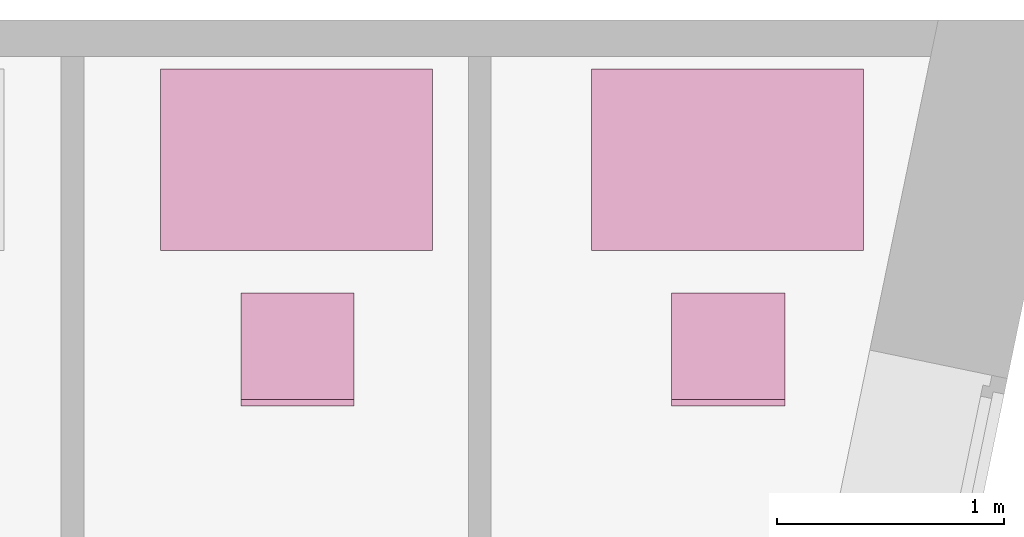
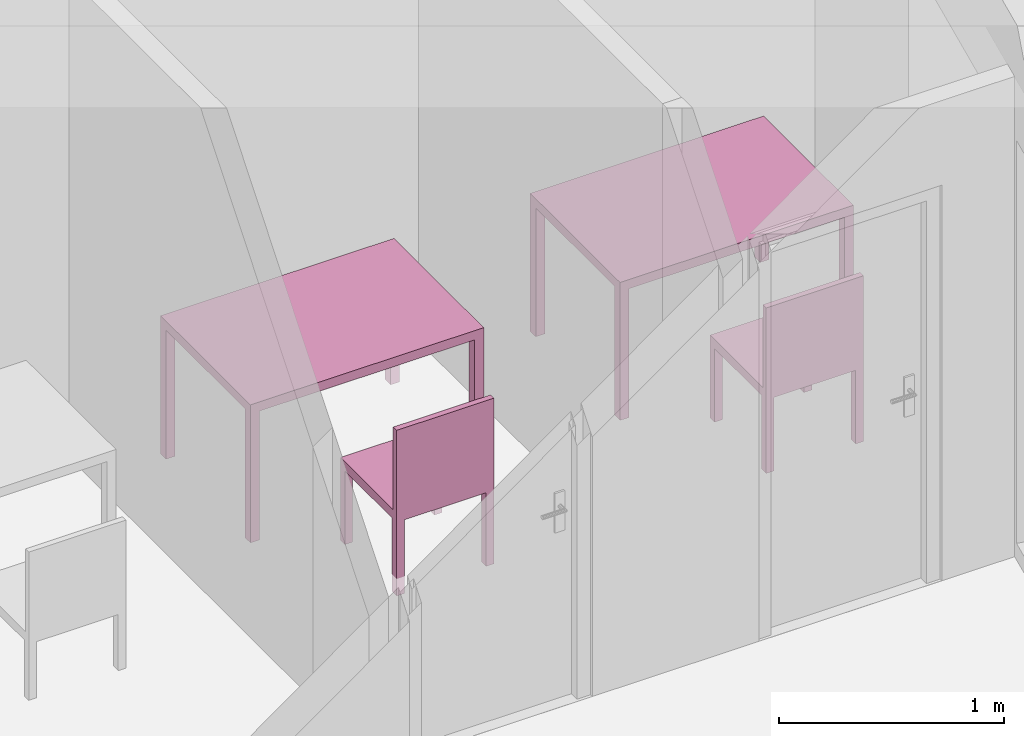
"""IFC4 building model written with IfcOpenShell, lengths in metres."""

from ifc_helpers import new_model, entity, si_unit, converted_unit, derived_unit, frame, origin, place, context, subcontext, project, spatial, faceted_brep, element, save


model = new_model("IFC4")

# Units and contexts
model_context = context("Model", 3, precision=1e-05, world=origin())
body_context = subcontext(model_context, "Body", "Model", "MODEL_VIEW")
ifc_project = project(units=[si_unit("LENGTHUNIT", "METRE"), si_unit("AREAUNIT", "SQUARE_METRE"), si_unit("VOLUMEUNIT", "CUBIC_METRE"), si_unit("MASSUNIT", "GRAM", prefix="KILO"), converted_unit("PLANEANGLEUNIT", "DEGREE", entity("IfcPlaneAngleMeasure", 0.0174532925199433), si_unit("PLANEANGLEUNIT", "RADIAN"), dimensions=[0, 0, 0, 0, 0, 0, 0]), derived_unit("THERMALTRANSMITTANCEUNIT", [(si_unit("POWERUNIT", "WATT"), 1), (si_unit("THERMODYNAMICTEMPERATUREUNIT", "KELVIN"), -1), (si_unit("LENGTHUNIT", "METRE"), -2)]), derived_unit("VOLUMETRICFLOWRATEUNIT", [(si_unit("LENGTHUNIT", "METRE"), 3), (converted_unit("TIMEUNIT", "hour", entity("IfcTimeMeasure", 3600.0), si_unit("TIMEUNIT", "SECOND"), dimensions=[0, 0, 1, 0, 0, 0, 0]), -1), (si_unit("LENGTHUNIT", "METRE"), -1)])], contexts=[model_context])

# Building, storeys
building_placement = place(None, origin())
building = spatial("IfcBuilding", under=ifc_project, at=building_placement, Name="HABITATGE PLURIFAMILIAR", CompositionType="ELEMENT")
storey_1_placement = place(building_placement, frame((0.0, 0.0, 15.28)))
storey_1 = spatial("IfcBuildingStorey", under=building, at=storey_1_placement, Name="PLANTA QUARTA", CompositionType="ELEMENT", Elevation=15.28)
storey_2_placement = place(storey_1_placement, frame((0.0, 0.0, 12.27)))
storey_2 = spatial("IfcBuildingStorey", under=storey_1, at=storey_2_placement, Name="NOU", CompositionType="PARTIAL")

# Furniture
furniture_1_placement = place(storey_2_placement, frame((423.415825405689, 27.2124791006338, -12.3699999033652)))
element("IfcFurniture", 1, at=furniture_1_placement, inside=storey_2, Name="Taula 120X80_P4", context=body_context, shape_type="Brep", body=[
    faceted_brep([(0.0464285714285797, 0.750069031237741, 0.0), (0.0464285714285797, 0.800069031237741, 0.0), (0.0, 0.800069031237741, 0.0), (0.0, 0.750069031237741, 0.0), (0.0464285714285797, 0.800069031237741, 0.7), (0.0464285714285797, 0.750069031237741, 0.7), (0.0, 0.750069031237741, 0.7), (0.0, 0.800069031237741, 0.7)], [[[0, 1, 2, 3]], [[4, 5, 6, 7]], [[1, 0, 5, 4]], [[2, 1, 4, 7]], [[3, 2, 7, 6]], [[0, 3, 6, 5]]], orient=[[False], [False], [False], [False], [False], [False]]),
    faceted_brep([(0.046428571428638, 0.0, 0.0), (0.046428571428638, 0.0500000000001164, 0.0), (0.0, 0.0500000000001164, 0.0), (0.0, 0.0, 0.0), (0.046428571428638, 0.0500000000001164, 0.7), (0.046428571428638, 0.0, 0.7), (0.0, 0.0, 0.7), (0.0, 0.0500000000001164, 0.7)], [[[0, 1, 2, 3]], [[4, 5, 6, 7]], [[1, 0, 5, 4]], [[2, 1, 4, 7]], [[3, 2, 7, 6]], [[0, 3, 6, 5]]], orient=[[False], [False], [False], [False], [False], [False]]),
    faceted_brep([(1.2, 0.750069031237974, 0.0), (1.2, 0.800069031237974, 0.0), (1.15357142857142, 0.800069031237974, 0.0), (1.15357142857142, 0.750069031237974, 0.0), (1.2, 0.800069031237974, 0.7), (1.2, 0.750069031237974, 0.7), (1.15357142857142, 0.750069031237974, 0.7), (1.15357142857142, 0.800069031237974, 0.7)], [[[0, 1, 2, 3]], [[4, 5, 6, 7]], [[1, 0, 5, 4]], [[2, 1, 4, 7]], [[3, 2, 7, 6]], [[0, 3, 6, 5]]], orient=[[False], [False], [False], [False], [False], [False]]),
    faceted_brep([(1.20000000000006, 0.0, 0.0), (1.20000000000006, 0.0500000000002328, 0.0), (1.15357142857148, 0.0500000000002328, 0.0), (1.15357142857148, 0.0, 0.0), (1.20000000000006, 0.0500000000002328, 0.7), (1.20000000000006, 0.0, 0.7), (1.15357142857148, 0.0, 0.7), (1.15357142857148, 0.0500000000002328, 0.7)], [[[0, 1, 2, 3]], [[4, 5, 6, 7]], [[1, 0, 5, 4]], [[2, 1, 4, 7]], [[3, 2, 7, 6]], [[0, 3, 6, 5]]], orient=[[False], [False], [False], [False], [False], [False]]),
    faceted_brep([(1.20000000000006, 0.0, 0.7), (1.2, 0.800069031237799, 0.7), (0.0, 0.800069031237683, 0.7), (0.0, 0.0, 0.7), (1.2, 0.800069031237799, 0.75), (1.20000000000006, 0.0, 0.75), (0.0, 0.0, 0.75), (0.0, 0.800069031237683, 0.75)], [[[0, 1, 2, 3]], [[4, 5, 6, 7]], [[1, 0, 5, 4]], [[2, 1, 4, 7]], [[3, 2, 7, 6]], [[0, 3, 6, 5]]], orient=[[False], [False], [False], [False], [False], [False]]),
])
furniture_2_placement = place(storey_2_placement, frame((425.316518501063, 27.2124791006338, -12.3699999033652)))
element("IfcFurniture", 2, at=furniture_2_placement, inside=storey_2, Name="Taula 120X80_P4", context=body_context, shape_type="Brep", body=[
    faceted_brep([(0.046428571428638, 0.750069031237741, 0.0), (0.046428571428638, 0.800069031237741, 0.0), (0.0, 0.800069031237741, 0.0), (0.0, 0.750069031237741, 0.0), (0.046428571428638, 0.800069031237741, 0.7), (0.046428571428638, 0.750069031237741, 0.7), (0.0, 0.750069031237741, 0.7), (0.0, 0.800069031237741, 0.7)], [[[0, 1, 2, 3]], [[4, 5, 6, 7]], [[1, 0, 5, 4]], [[2, 1, 4, 7]], [[3, 2, 7, 6]], [[0, 3, 6, 5]]], orient=[[False], [False], [False], [False], [False], [False]]),
    faceted_brep([(0.0464285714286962, 0.0, 0.0), (0.0464285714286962, 0.0500000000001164, 0.0), (0.0, 0.0500000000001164, 0.0), (0.0, 0.0, 0.0), (0.0464285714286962, 0.0500000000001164, 0.7), (0.0464285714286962, 0.0, 0.7), (0.0, 0.0, 0.7), (0.0, 0.0500000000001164, 0.7)], [[[0, 1, 2, 3]], [[4, 5, 6, 7]], [[1, 0, 5, 4]], [[2, 1, 4, 7]], [[3, 2, 7, 6]], [[0, 3, 6, 5]]], orient=[[False], [False], [False], [False], [False], [False]]),
    faceted_brep([(1.20000000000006, 0.750069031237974, 0.0), (1.20000000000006, 0.800069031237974, 0.0), (1.15357142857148, 0.800069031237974, 0.0), (1.15357142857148, 0.750069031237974, 0.0), (1.20000000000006, 0.800069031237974, 0.7), (1.20000000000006, 0.750069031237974, 0.7), (1.15357142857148, 0.750069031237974, 0.7), (1.15357142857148, 0.800069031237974, 0.7)], [[[0, 1, 2, 3]], [[4, 5, 6, 7]], [[1, 0, 5, 4]], [[2, 1, 4, 7]], [[3, 2, 7, 6]], [[0, 3, 6, 5]]], orient=[[False], [False], [False], [False], [False], [False]]),
    faceted_brep([(1.20000000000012, 0.0, 0.0), (1.20000000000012, 0.0500000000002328, 0.0), (1.15357142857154, 0.0500000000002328, 0.0), (1.1535714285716, 0.0, 0.0), (1.20000000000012, 0.0500000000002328, 0.7), (1.20000000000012, 0.0, 0.7), (1.1535714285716, 0.0, 0.7), (1.15357142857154, 0.0500000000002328, 0.7)], [[[0, 1, 2, 3]], [[4, 5, 6, 7]], [[1, 0, 5, 4]], [[2, 1, 4, 7]], [[3, 2, 7, 6]], [[0, 3, 6, 5]]], orient=[[False], [False], [False], [False], [False], [False]]),
    faceted_brep([(1.20000000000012, 0.0, 0.7), (1.20000000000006, 0.800069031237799, 0.7), (0.0, 0.800069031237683, 0.7), (0.0, 0.0, 0.7), (1.20000000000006, 0.800069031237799, 0.75), (1.20000000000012, 0.0, 0.75), (0.0, 0.0, 0.75), (0.0, 0.800069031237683, 0.75)], [[[0, 1, 2, 3]], [[4, 5, 6, 7]], [[1, 0, 5, 4]], [[2, 1, 4, 7]], [[3, 2, 7, 6]], [[0, 3, 6, 5]]], orient=[[False], [False], [False], [False], [False], [False]]),
])
furniture_3_placement = place(storey_2_placement, frame((423.770053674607, 26.5242885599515, -12.3653305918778)))
element("IfcFurniture", 3, at=furniture_3_placement, inside=storey_2, Name="Cadira d'Oficina_P4", context=body_context, shape_type="Brep", body=[
    faceted_brep([(0.5, 0.5, 0.399999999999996), (0.0, 0.500000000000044, 0.399999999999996), (0.0, 0.0, 0.399999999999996), (0.5, 0.0, 0.399999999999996), (0.5, 0.0, 0.449999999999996), (0.0, 0.0, 0.449999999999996), (0.0, 0.500000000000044, 0.449999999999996), (0.5, 0.5, 0.449999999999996)], [[[0, 1, 2, 3]], [[4, 5, 6, 7]], [[3, 4, 7, 0]], [[2, 5, 4, 3]], [[1, 6, 5, 2]], [[0, 7, 6, 1]]], orient=[[False], [False], [False], [False], [False], [False]]),
    faceted_brep([(0.0, 0.0400000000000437, 0.0), (0.0, 0.0, 0.0), (0.04, 0.0, 0.0), (0.04, 0.0400000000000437, 0.0), (0.04, 0.0400000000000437, 0.4), (0.04, 0.0, 0.4), (0.0, 0.0, 0.4), (0.0, 0.0400000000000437, 0.4)], [[[0, 1, 2, 3]], [[4, 5, 6, 7]], [[3, 4, 7, 0]], [[2, 5, 4, 3]], [[1, 6, 5, 2]], [[0, 7, 6, 1]]], orient=[[False], [False], [False], [False], [False], [False]]),
    faceted_brep([(0.0, 0.500000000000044, 0.0), (0.0, 0.460000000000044, 0.0), (0.04, 0.460000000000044, 0.0), (0.04, 0.500000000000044, 0.0), (0.04, 0.500000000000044, 0.4), (0.04, 0.460000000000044, 0.4), (0.0, 0.460000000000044, 0.4), (0.0, 0.500000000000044, 0.4)], [[[0, 1, 2, 3]], [[4, 5, 6, 7]], [[3, 4, 7, 0]], [[2, 5, 4, 3]], [[1, 6, 5, 2]], [[0, 7, 6, 1]]], orient=[[False], [False], [False], [False], [False], [False]]),
    faceted_brep([(0.46, 0.04, 0.0), (0.46, 0.0, 0.0), (0.5, 0.0, 0.0), (0.5, 0.04, 0.0), (0.5, 0.04, 0.4), (0.5, 0.0, 0.4), (0.46, 0.0, 0.4), (0.46, 0.04, 0.4)], [[[0, 1, 2, 3]], [[4, 5, 6, 7]], [[3, 4, 7, 0]], [[2, 5, 4, 3]], [[1, 6, 5, 2]], [[0, 7, 6, 1]]], orient=[[False], [False], [False], [False], [False], [False]]),
    faceted_brep([(0.46, 0.5, 0.0), (0.46, 0.46, 0.0), (0.5, 0.46, 0.0), (0.5, 0.5, 0.0), (0.5, 0.5, 0.4), (0.5, 0.46, 0.4), (0.46, 0.46, 0.4), (0.46, 0.5, 0.4)], [[[0, 1, 2, 3]], [[4, 5, 6, 7]], [[3, 4, 7, 0]], [[2, 5, 4, 3]], [[1, 6, 5, 2]], [[0, 7, 6, 1]]], orient=[[False], [False], [False], [False], [False], [False]]),
    faceted_brep([(0.0, 0.0300000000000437, 0.45), (0.0, 0.0, 0.45), (0.5, 0.0, 0.45), (0.5, 0.03, 0.45), (0.5, 0.03, 0.9), (0.5, 0.0, 0.9), (0.0, 0.0, 0.9), (0.0, 0.0300000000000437, 0.9)], [[[0, 1, 2, 3]], [[4, 5, 6, 7]], [[3, 4, 7, 0]], [[2, 5, 4, 3]], [[1, 6, 5, 2]], [[0, 7, 6, 1]]], orient=[[False], [False], [False], [False], [False], [False]]),
])
furniture_4_placement = place(storey_2_placement, frame((425.670746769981, 26.5242885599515, -12.3653305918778)))
element("IfcFurniture", 4, at=furniture_4_placement, inside=storey_2, Name="Cadira d'Oficina_P4", context=body_context, shape_type="Brep", body=[
    faceted_brep([(0.5, 0.5, 0.399999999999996), (0.0, 0.500000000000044, 0.399999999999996), (0.0, 0.0, 0.399999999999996), (0.5, 0.0, 0.399999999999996), (0.5, 0.0, 0.449999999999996), (0.0, 0.0, 0.449999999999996), (0.0, 0.500000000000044, 0.449999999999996), (0.5, 0.5, 0.449999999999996)], [[[0, 1, 2, 3]], [[4, 5, 6, 7]], [[3, 4, 7, 0]], [[2, 5, 4, 3]], [[1, 6, 5, 2]], [[0, 7, 6, 1]]], orient=[[False], [False], [False], [False], [False], [False]]),
    faceted_brep([(0.0, 0.0400000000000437, 0.0), (0.0, 0.0, 0.0), (0.04, 0.0, 0.0), (0.04, 0.0400000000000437, 0.0), (0.04, 0.0400000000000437, 0.4), (0.04, 0.0, 0.4), (0.0, 0.0, 0.4), (0.0, 0.0400000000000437, 0.4)], [[[0, 1, 2, 3]], [[4, 5, 6, 7]], [[3, 4, 7, 0]], [[2, 5, 4, 3]], [[1, 6, 5, 2]], [[0, 7, 6, 1]]], orient=[[False], [False], [False], [False], [False], [False]]),
    faceted_brep([(0.0, 0.500000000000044, 0.0), (0.0, 0.460000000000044, 0.0), (0.04, 0.460000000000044, 0.0), (0.04, 0.500000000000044, 0.0), (0.04, 0.500000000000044, 0.4), (0.04, 0.460000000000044, 0.4), (0.0, 0.460000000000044, 0.4), (0.0, 0.500000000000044, 0.4)], [[[0, 1, 2, 3]], [[4, 5, 6, 7]], [[3, 4, 7, 0]], [[2, 5, 4, 3]], [[1, 6, 5, 2]], [[0, 7, 6, 1]]], orient=[[False], [False], [False], [False], [False], [False]]),
    faceted_brep([(0.46, 0.04, 0.0), (0.46, 0.0, 0.0), (0.5, 0.0, 0.0), (0.5, 0.04, 0.0), (0.5, 0.04, 0.4), (0.5, 0.0, 0.4), (0.46, 0.0, 0.4), (0.46, 0.04, 0.4)], [[[0, 1, 2, 3]], [[4, 5, 6, 7]], [[3, 4, 7, 0]], [[2, 5, 4, 3]], [[1, 6, 5, 2]], [[0, 7, 6, 1]]], orient=[[False], [False], [False], [False], [False], [False]]),
    faceted_brep([(0.46, 0.5, 0.0), (0.46, 0.46, 0.0), (0.5, 0.46, 0.0), (0.5, 0.5, 0.0), (0.5, 0.5, 0.4), (0.5, 0.46, 0.4), (0.46, 0.46, 0.4), (0.46, 0.5, 0.4)], [[[0, 1, 2, 3]], [[4, 5, 6, 7]], [[3, 4, 7, 0]], [[2, 5, 4, 3]], [[1, 6, 5, 2]], [[0, 7, 6, 1]]], orient=[[False], [False], [False], [False], [False], [False]]),
    faceted_brep([(0.0, 0.0300000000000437, 0.45), (0.0, 0.0, 0.45), (0.5, 0.0, 0.45), (0.5, 0.03, 0.45), (0.5, 0.03, 0.9), (0.5, 0.0, 0.9), (0.0, 0.0, 0.9), (0.0, 0.0300000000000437, 0.9)], [[[0, 1, 2, 3]], [[4, 5, 6, 7]], [[3, 4, 7, 0]], [[2, 5, 4, 3]], [[1, 6, 5, 2]], [[0, 7, 6, 1]]], orient=[[False], [False], [False], [False], [False], [False]]),
])

save(model, "model.ifc")
